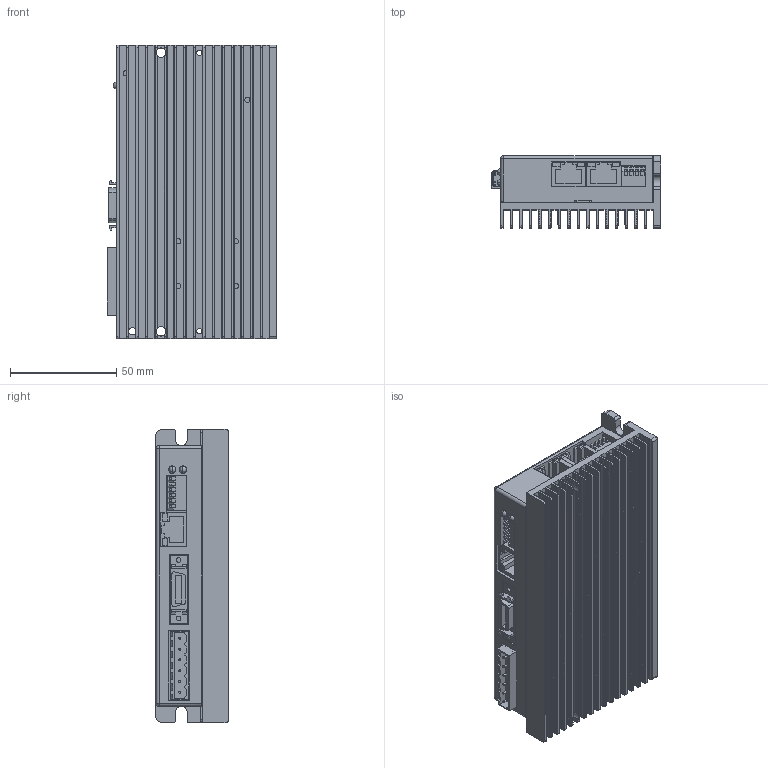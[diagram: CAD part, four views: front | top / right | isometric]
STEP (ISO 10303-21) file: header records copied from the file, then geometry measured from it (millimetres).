
FILE_DESCRIPTION((''),'2;1');
FILE_NAME('FM860','2014-03-05T',('pengsg'),(''),'PRO/ENGINEER BY PARAMETRIC TECHNOLOGY CORPORATION, 2010100','PRO/ENGINEER BY PARAMETRIC TECHNOLOGY CORPORATION, 2010100','');
FILE_SCHEMA(('CONFIG_CONTROL_DESIGN'));
Length unit declared in the file: millimetre
Products named in the file (1): FM860
Bounding box: 79.9 x 34 x 138 mm (x, y, z)
Volume: 260829.6 mm3; surface area: 88697.5 mm2
Topology: 1 solids, 1 shells, 931 faces, 2617 edges, 1730 vertices
Faces by surface type: cylinder 537, plane 388, sphere 6
Entity records: 31258 total; most frequent: CARTESIAN_POINT 6898, ORIENTED_EDGE 5226, DIRECTION 5027, EDGE_CURVE 2613, AXIS2_PLACEMENT_3D 1758, VERTEX_POINT 1730, VECTOR 1511, LINE 1511
